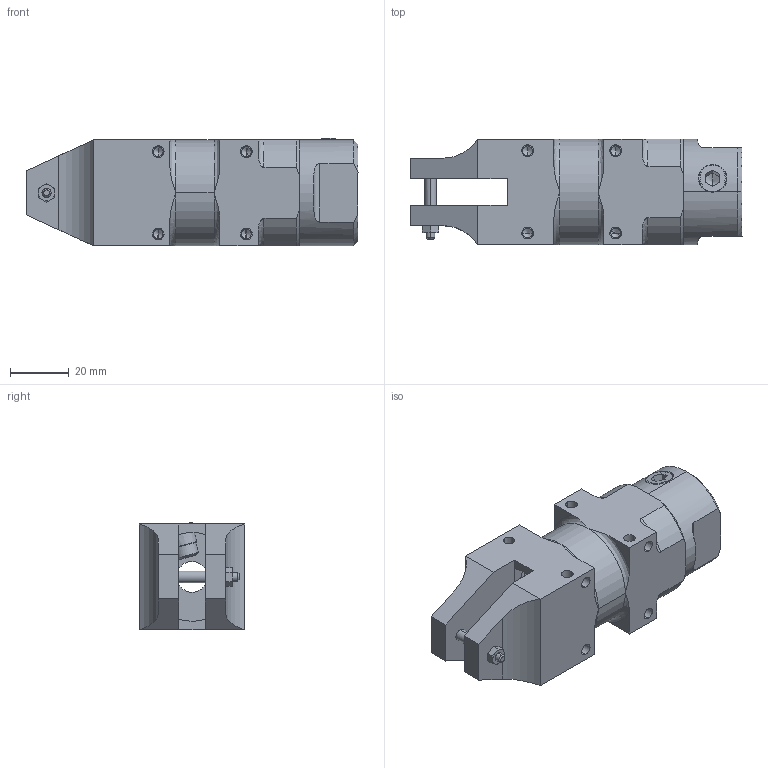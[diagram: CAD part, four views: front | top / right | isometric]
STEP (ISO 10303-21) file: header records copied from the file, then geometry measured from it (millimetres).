
FILE_DESCRIPTION (( 'STEP AP214' ), '1' );
FILE_NAME ('GT-NS7.STEP', '2019-11-27T09:32:13', ( '微软用户' ), ( '微软中国' ), 'SwSTEP 2.0', 'SolidWorks 2016', '' );
FILE_SCHEMA (( 'AUTOMOTIVE_DESIGN' ));
Length unit declared in the file: millimetre
Products named in the file (1): GT-NS7
Bounding box: 113 x 36 x 36.6 mm (x, y, z)
Surface area: 20316.8 mm2 (no closed solid volume)
Topology: 0 solids, 3 shells, 265 faces, 626 edges, 371 vertices
Faces by surface type: cylinder 98, plane 87, cone 68, bspline 10, torus 2
Entity records: 8879 total; most frequent: CARTESIAN_POINT 2983, DIRECTION 1243, ORIENTED_EDGE 1168, EDGE_CURVE 588, AXIS2_PLACEMENT_3D 492, VERTEX_POINT 371, EDGE_LOOP 314, ADVANCED_FACE 265
